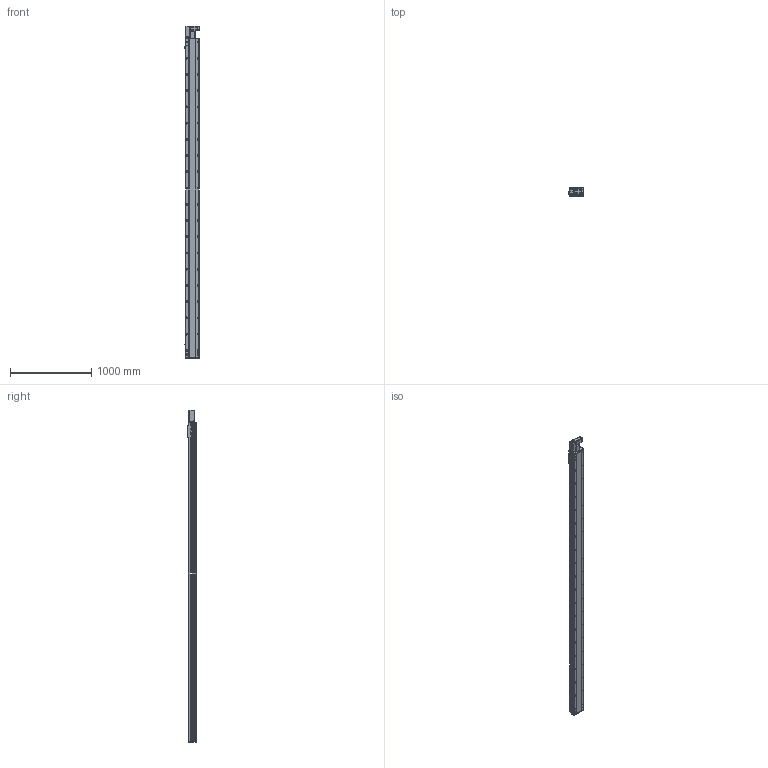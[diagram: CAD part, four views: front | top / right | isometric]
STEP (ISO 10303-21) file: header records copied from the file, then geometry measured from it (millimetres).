
FILE_DESCRIPTION (( 'STEP AP214' ), '1' );
FILE_NAME ('RTB17S-XX-3650-L-M40-C4.STEP', '2025-12-11T06:10:05', ( '' ), ( '' ), 'SwSTEP 2.0', 'SolidWorks 2018', '' );
FILE_SCHEMA (( 'AUTOMOTIVE_DESIGN' ));
Length unit declared in the file: millimetre
Products named in the file (14): RTB17S-XX-3650-L-M40-C4; RTB14-L-008-M20--萇儂啣^RTB17S-L-々湍釱蚾饜-400W_RTB17S-XX-XX-L-M40-C4; RTB17S-L-001耜醱啣^RTB17S-XX-XX-L-M40-C4; 400W侜督萇儂^RTB17S-XX-XX-L-M40-C4; RTB17S-L-007奻裔^RTB17S-XX-XX-L-M40-C4; RTB17-R-011菁釱^RTB17S-XX-XX-L-M40-C4; RTB17S-L-々湍釱蚾饜-400W^RTB17S-XX-XX-L-M40-C4; OMRON EE-SX672 传感器^RTB17S-XX-XX-L-M40-C4; RTB14-L-018P^RTB17S-L-々湍釱蚾饜-400W_RTB17S-XX-XX-L-M40-C4; RTB17S-L-004佪裝蹟譫蟀諉釱^RTB17S-XX-XX-L-M40-C4; RTH13-BL-012覜茼え俋离^RTB17S-XX-XX-L-M40-C4; RMP17S-L-014-T20--々湍釱^RTB17S-L-々湍釱蚾饜-400W_RTB17S-XX-XX-L-M40-C4; RTB14-L-005P--轴承塑胶压盖^RTB17S-L-皮带座装配-400W_RTB17S-XX-XX-L-M40-C4; RTB14-L-017P^RTB17S-L-々湍釱蚾饜-400W_RTB17S-XX-XX-L-M40-C4
Assembly tree (16 placements, depth 3):
  RTB17S-XX-3650-L-M40-C4
    RTB17-R-011菁釱^RTB17S-XX-XX-L-M40-C4
    RTB17S-L-007奻裔^RTB17S-XX-XX-L-M40-C4
    OMRON EE-SX672 传感器^RTB17S-XX-XX-L-M40-C4  x3
    RTB17S-L-001耜醱啣^RTB17S-XX-XX-L-M40-C4
    400W侜督萇儂^RTB17S-XX-XX-L-M40-C4
    RTB17S-L-004佪裝蹟譫蟀諉釱^RTB17S-XX-XX-L-M40-C4
    RTH13-BL-012覜茼え俋离^RTB17S-XX-XX-L-M40-C4
    RTB17S-L-々湍釱蚾饜-400W^RTB17S-XX-XX-L-M40-C4
      RMP17S-L-014-T20--々湍釱^RTB17S-L-々湍釱蚾饜-400W_RTB17S-XX-XX-L-M40-C4
      RTB14-L-005P--轴承塑胶压盖^RTB17S-L-皮带座装配-400W_RTB17S-XX-XX-L-M40-C4
      RTB14-L-008-M20--萇儂啣^RTB17S-L-々湍釱蚾饜-400W_RTB17S-XX-XX-L-M40-C4
      RTB14-L-017P^RTB17S-L-々湍釱蚾饜-400W_RTB17S-XX-XX-L-M40-C4  x2
      RTB14-L-018P^RTB17S-L-々湍釱蚾饜-400W_RTB17S-XX-XX-L-M40-C4
Bounding box: 186 x 108 x 4091 mm (x, y, z)
Volume: 33979620.4 mm3; surface area: 3856485.6 mm2
Topology: 15 solids, 15 shells, 2429 faces, 6843 edges, 4473 vertices
Faces by surface type: plane 1096, cylinder 885, bspline 301, cone 139, torus 8
Entity records: 73385 total; most frequent: CARTESIAN_POINT 21048, ORIENTED_EDGE 10530, DIRECTION 9656, EDGE_CURVE 5265, VERTEX_POINT 3461, AXIS2_PLACEMENT_3D 3391, LINE 2874, VECTOR 2874
